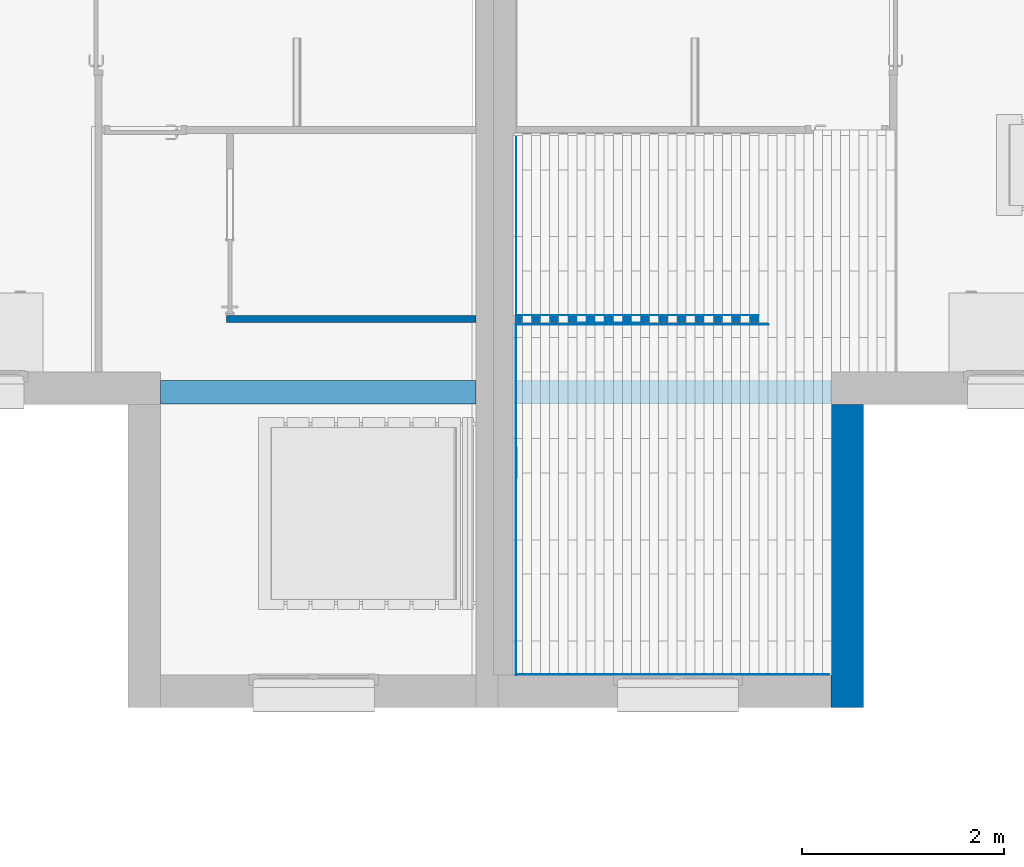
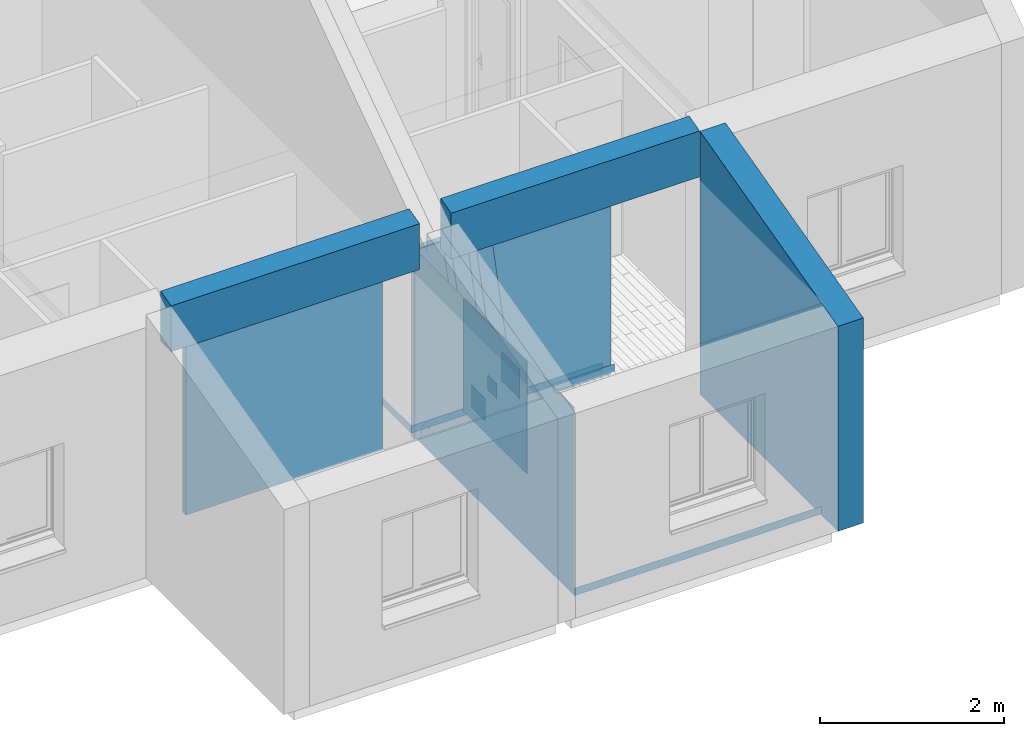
# One storey, part 27 of 50: 15 walls.
"""IFC2X3 building model written with IfcOpenShell, lengths in metres."""

from ifc_helpers import new_model, entity, si_unit, converted_unit, derived_unit, direction, frame, frame_2d, origin, origin_2d_with_axis, place, context, subcontext, project, spatial, polyline, rectangle, extrude, clip, halfspace, bounded_halfspace, material, layer, layer_set, layer_usage, type_object, element, save


model = new_model("IFC2X3")

# Units and contexts
model_context = context("Model", 3, precision=1e-05, world=origin(), true_north=direction((6.12303176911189e-17, 1.0)))
context_of_model = context(None, 3, precision=1e-05, world=origin(), true_north=direction((6.12303176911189e-17, 1.0)))
body_context = subcontext(model_context, "Body", "Model", "MODEL_VIEW")
ifc_project = project(units=[si_unit("LENGTHUNIT", "METRE"), si_unit("AREAUNIT", "SQUARE_METRE"), si_unit("VOLUMEUNIT", "CUBIC_METRE"), converted_unit("PLANEANGLEUNIT", "DEGREE", entity("IfcRatioMeasure", 0.0174532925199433), si_unit("PLANEANGLEUNIT", "RADIAN"), dimensions=[0, 0, 0, 0, 0, 0, 0]), si_unit("MASSUNIT", "GRAM", prefix="KILO"), si_unit("TIMEUNIT", "SECOND"), si_unit("FREQUENCYUNIT", "HERTZ"), si_unit("THERMODYNAMICTEMPERATUREUNIT", "DEGREE_CELSIUS"), derived_unit("THERMALTRANSMITTANCEUNIT", [(si_unit("MASSUNIT", "GRAM", prefix="KILO"), 1), (si_unit("THERMODYNAMICTEMPERATUREUNIT", "KELVIN"), -1), (si_unit("TIMEUNIT", "SECOND"), -3)]), derived_unit("VOLUMETRICFLOWRATEUNIT", [(si_unit("LENGTHUNIT", "METRE"), 3), (si_unit("TIMEUNIT", "SECOND"), -1)]), si_unit("ELECTRICCURRENTUNIT", "AMPERE"), si_unit("ELECTRICVOLTAGEUNIT", "VOLT"), si_unit("POWERUNIT", "WATT"), si_unit("FORCEUNIT", "NEWTON", prefix="KILO"), si_unit("ILLUMINANCEUNIT", "LUX"), si_unit("LUMINOUSFLUXUNIT", "LUMEN"), si_unit("LUMINOUSINTENSITYUNIT", "CANDELA"), si_unit("PRESSUREUNIT", "PASCAL")], contexts=[model_context, context_of_model])

# Site, building, storey
site_placement = place(None, origin())
site = spatial("IfcSite", under=ifc_project, at=site_placement, Name="Surface", CompositionType="ELEMENT")
building_placement = place(site_placement, origin())
building = spatial("IfcBuilding", under=site, at=building_placement, CompositionType="ELEMENT")
storey_placement = place(building_placement, frame((0.0, 0.0, 2.82)))
storey = spatial("IfcBuildingStorey", under=building, at=storey_placement, Name="ETAGE", CompositionType="ELEMENT", Elevation=2.82)

# Walls
ifc_material_1 = material(Name="Peinture - Blanc")
ifc_layer_1 = layer(ifc_material_1, 0.07)
ifc_layer_set_1 = layer_set([ifc_layer_1], Name="Mur de base:Int.  Platre 70 mm en blanc")
ifc_layer_usage_1 = layer_usage(ifc_layer_set_1, "AXIS2", "NEGATIVE", 0.035)
wall_type_1 = type_object("IfcWallType", Name="Mur de base:Int.  Platre 70 mm en blanc", PredefinedType="STANDARD", material=ifc_layer_set_1)
wall_1_placement = place(storey_placement, frame((86.3967857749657, 84.7725239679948, 0.0), z_axis=(0.0, 0.0, 1.0), x_axis=(-1.0, 0.0, 0.0)))
element("IfcWallStandardCase", 1, at=wall_1_placement, inside=storey, type_object=wall_type_1, material=ifc_layer_usage_1, Name="Mur de base:Int.  Platre 70 mm en blanc", ObjectType="Mur de base:Int.  Platre 70 mm en blanc", context=body_context, shape_type="SweptSolid", body=[
    extrude(rectangle(XDim=2.47038340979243, YDim=0.0699999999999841, at=frame_2d((1.23519170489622, 0.0), x_axis=(-1.0, 0.0))), origin(), (0.0, 0.0, 1.0), 2.52),
])
ifc_layer_usage_2 = layer_usage(ifc_layer_set_1, "AXIS2", "POSITIVE", -0.035)
wall_2_placement = place(storey_placement, frame((81.0610189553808, 84.7725239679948, 0.0)))
element("IfcWallStandardCase", 2, at=wall_2_placement, inside=storey, type_object=wall_type_1, material=ifc_layer_usage_2, Name="Mur de base:Int.  Platre 70 mm en blanc", ObjectType="Mur de base:Int.  Platre 70 mm en blanc", context=body_context, shape_type="SweptSolid", body=[
    extrude(rectangle(XDim=2.47038340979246, YDim=0.0699999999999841, at=frame_2d((1.23519170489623, 0.0), x_axis=(-1.0, 0.0))), origin(), (0.0, 0.0, 1.0), 2.52),
])
ifc_material_2 = material(Name="Enduit  gris")
ifc_layer_2 = layer(ifc_material_2, 0.02)
ifc_material_3 = material(Name="Parpaing")
ifc_layer_3 = layer(ifc_material_3, 0.2)
ifc_material_4 = material(Name="Isolant")
ifc_layer_4 = layer(ifc_material_4, 0.1)
ifc_layer_set_2 = layer_set([ifc_layer_2, ifc_layer_3, ifc_layer_4], Name="Mur de base:Ext. Parpaing 20 + Isolant 10 enduit gris")
ifc_layer_usage_3 = layer_usage(ifc_layer_set_2, "AXIS2", "NEGATIVE", 0.16)
wall_type_2 = type_object("IfcWallType", Name="Mur de base:Ext. Parpaing 20 + Isolant 10 enduit gris", PredefinedType="STANDARD", material=ifc_layer_set_2)
wall_3_placement = place(storey_placement, frame((87.2067857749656, 83.9275239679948, 0.0), z_axis=(0.0, 0.0, 1.0), x_axis=(0.0, -1.0, 0.0)))
element("IfcWallStandardCase", 3, at=wall_3_placement, inside=storey, type_object=wall_type_2, material=ifc_layer_usage_3, Name="Mur de base:Ext. Parpaing 20 + Isolant 10 enduit gris", ObjectType="Mur de base:Ext. Parpaing 20 + Isolant 10 enduit gris", context=body_context, shape_type="Clipping", body=[
    clip(extrude(rectangle(XDim=3.00000000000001, YDim=0.319999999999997, at=frame_2d((1.50000000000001, 0.0), x_axis=(-1.0, 0.0))), origin(), (0.0, 0.0, 1.0), 3.49084668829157), bounded_halfspace(frame((0.0, -0.159999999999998, 3.49084668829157), z_axis=(0.248864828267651, 0.0, 0.968538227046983), x_axis=(0.0, 1.0, 0.0)), False, frame((0.0, -0.159999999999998, 3.49084668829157)), polyline([(0.0, 0.0), (2.68000000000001, 0.0), (3.0, 0.0), (3.0, 0.319999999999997), (0.0, 0.319999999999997), (0.0, 0.0)]))),
])
ifc_material_5 = material(Name="Enduit blanc cassé2")
ifc_layer_5 = layer(ifc_material_5, 0.015)
ifc_layer_6 = layer(ifc_material_3, 0.2)
ifc_layer_7 = layer(ifc_material_5, 0.015)
ifc_layer_set_3 = layer_set([ifc_layer_5, ifc_layer_6, ifc_layer_7], Name="Mur de base:Ext. Parpaing 20 + 2 x 1.5")
ifc_layer_usage_4 = layer_usage(ifc_layer_set_3, "AXIS2", "NEGATIVE", 0.115)
wall_type_3 = type_object("IfcWallType", Name="Mur de base:Ext. Parpaing 20 + 2 x 1.5", PredefinedType="STANDARD", material=ifc_layer_set_3)
wall_4_placement = place(storey_placement, frame((87.0467857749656, 84.0475239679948, 2.88288676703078), z_axis=(0.0, 0.0, 1.0), x_axis=(-1.0, 0.0, 0.0)))
element("IfcWallStandardCase", 4, at=wall_4_placement, inside=storey, type_object=wall_type_3, material=ifc_layer_usage_4, Name="Mur de base:Ext. Parpaing 20 + 2 x 1.5", ObjectType="Mur de base:Ext. Parpaing 20 + 2 x 1.5", context=body_context, shape_type="Clipping", body=[
    clip(extrude(rectangle(XDim=3.12038340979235, YDim=0.230000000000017, at=frame_2d((1.56019170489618, -6.45317133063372e-16), x_axis=(-1.0, 0.0))), origin(), (0.0, 0.0, 1.0), 0.66834291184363), bounded_halfspace(frame((0.0, -0.114999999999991, 0.668342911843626), z_axis=(0.0, 0.248864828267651, 0.968538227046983), x_axis=(-1.0, 0.0, 0.0)), False, frame((0.0, -0.114999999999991, 0.668342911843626)), polyline([(0.0, 0.0), (3.12038340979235, 0.0), (3.12038340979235, 0.23), (0.0, 0.23), (0.0, 0.0)]))),
])
ifc_layer_usage_5 = layer_usage(ifc_layer_set_3, "AXIS2", "POSITIVE", -0.115)
wall_5_placement = place(storey_placement, frame((80.4110189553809, 84.0475239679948, 2.88288676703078)))
element("IfcWallStandardCase", 5, at=wall_5_placement, inside=storey, type_object=wall_type_3, material=ifc_layer_usage_5, Name="Mur de base:Ext. Parpaing 20 + 2 x 1.5", ObjectType="Mur de base:Ext. Parpaing 20 + 2 x 1.5", context=body_context, shape_type="Clipping", body=[
    clip(extrude(rectangle(XDim=3.12038340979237, YDim=0.230000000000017, at=frame_2d((1.56019170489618, 6.38378239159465e-16), x_axis=(-1.0, 0.0))), origin(), (0.0, 0.0, 1.0), 0.668342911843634), bounded_halfspace(frame((0.0, -0.114999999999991, 0.609244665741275), z_axis=(0.0, -0.248864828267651, 0.968538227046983), x_axis=(1.0, 0.0, 0.0)), False, frame((0.0, -0.114999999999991, 0.609244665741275)), polyline([(0.0, 0.0), (3.12038340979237, 0.0), (3.12038340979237, 0.23), (0.0, 0.23), (0.0, 0.0)]))),
])
ifc_material_6 = material(Name="biorox 2")
ifc_layer_8 = layer(ifc_material_6, 0.002)
ifc_layer_set_4 = layer_set([ifc_layer_8], Name="Mur de base:peinture biorox 2")
ifc_layer_usage_6 = layer_usage(ifc_layer_set_4, "AXIS2", "POSITIVE", -0.001)
wall_type_4 = type_object("IfcWallType", Name="Mur de base:peinture biorox 2", PredefinedType="STANDARD", material=ifc_layer_set_4)
wall_6_placement = place(storey_placement, frame((83.9310898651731, 84.8089434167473, 0.0400000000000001)))
element("IfcWallStandardCase", 6, at=wall_6_placement, inside=storey, type_object=wall_type_4, material=ifc_layer_usage_6, Name="Mur de base:peinture biorox 2", ObjectType="Mur de base:peinture biorox 2", context=body_context, shape_type="Clipping", body=[
    clip(extrude(rectangle(XDim=2.39781250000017, YDim=0.00199999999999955, at=frame_2d((1.19890625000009, -3.477903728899e-15), x_axis=(-1.0, 0.0))), origin(), (0.0, 0.0, 1.0), 0.0997627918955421), halfspace(frame((0.0, -0.000999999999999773, 0.0997627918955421), z_axis=(0.0, 0.0, 1.0), x_axis=(0.0, 1.0, 0.0)), False)),
])
ifc_layer_usage_7 = layer_usage(ifc_layer_set_4, "AXIS2", "NEGATIVE", 0.001)
wall_7_placement = place(storey_placement, frame((84.3695433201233, 84.7361045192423, 0.0400000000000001)))
element("IfcWallStandardCase", 7, at=wall_7_placement, inside=storey, type_object=wall_type_4, material=ifc_layer_usage_7, Name="Mur de base:peinture biorox 2", ObjectType="Mur de base:peinture biorox 2", context=body_context, shape_type="Clipping", body=[
    clip(clip(extrude(rectangle(XDim=0.518694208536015, YDim=0.00199999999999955, at=frame_2d((0.259347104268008, 0.0), x_axis=(-1.0, 0.0))), origin(), (0.0, 0.0, 1.0), 2.5), halfspace(frame((0.316929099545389, -0.000999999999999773, 0.0), z_axis=(-0.992060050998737, 0.0, -0.125765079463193), x_axis=(0.0, 1.0, 0.0)), False)), halfspace(frame((0.201765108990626, -0.000999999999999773, 2.5), z_axis=(0.992060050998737, 0.0, 0.125765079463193), x_axis=(0.0, 1.0, 0.0)), False)),
])
ifc_layer_usage_8 = layer_usage(ifc_layer_set_4, "AXIS2", "POSITIVE", -0.001)
wall_8_placement = place(storey_placement, frame((83.9320898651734, 83.6875239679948, 1.02), z_axis=(0.0, 0.0, 1.0), x_axis=(0.0, -1.0, 0.0)))
element("IfcWallStandardCase", 8, at=wall_8_placement, inside=storey, type_object=wall_type_4, material=ifc_layer_usage_8, Name="Mur de base:peinture biorox 2", ObjectType="Mur de base:peinture biorox 2", context=body_context, shape_type="Clipping", body=[
    clip(clip(extrude(rectangle(XDim=1.39999999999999, YDim=0.00199999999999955, at=frame_2d((0.699999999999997, 0.0), x_axis=(-1.0, 0.0))), origin(), (0.0, 0.0, 1.0), 1.5), halfspace(frame((1.39999999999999, -0.000999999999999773, 0.0), z_axis=(0.0, 0.0, -1.0), x_axis=(0.0, 1.0, 0.0)), False)), halfspace(frame((0.0, -0.000999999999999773, 1.5), z_axis=(0.0, 0.0, 1.0), x_axis=(0.0, 1.0, 0.0)), False)),
])
ifc_material_7 = material(Name="Blanc - Element de salle de bains")
ifc_layer_9 = layer(ifc_material_7, 0.002)
ifc_layer_set_5 = layer_set([ifc_layer_9], Name="Mur de base:PLINTHE EN BOIS")
ifc_layer_usage_9 = layer_usage(ifc_layer_set_5, "AXIS2", "NEGATIVE", 0.001)
wall_type_5 = type_object("IfcWallType", Name="Mur de base:PLINTHE EN BOIS", PredefinedType="STANDARD", material=ifc_layer_set_5)
wall_9_placement = place(storey_placement, frame((83.9300898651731, 86.5975239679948, 0.0400000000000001), z_axis=(0.0, 0.0, 1.0), x_axis=(0.0, -1.0, 0.0)))
element("IfcWallStandardCase", 9, at=wall_9_placement, inside=storey, type_object=wall_type_5, material=ifc_layer_usage_9, Name="Mur de base:PLINTHE EN BOIS", ObjectType="Mur de base:PLINTHE EN BOIS", context=body_context, shape_type="SweptSolid", body=[
    extrude(rectangle(XDim=5.34999999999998, YDim=0.00199999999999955, at=frame_2d((2.67499999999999, 0.0), x_axis=(-1.0, 0.0))), origin(), (0.0, 0.0, 1.0), 0.1),
])
ifc_layer_usage_10 = layer_usage(ifc_layer_set_5, "AXIS2", "POSITIVE", -0.001)
wall_10_placement = place(storey_placement, frame((83.9286523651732, 81.2535239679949, 0.0400000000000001)))
element("IfcWallStandardCase", 10, at=wall_10_placement, inside=storey, type_object=wall_type_5, material=ifc_layer_usage_10, Name="Mur de base:PLINTHE EN BOIS", ObjectType="Mur de base:PLINTHE EN BOIS", context=body_context, shape_type="SweptSolid", body=[
    extrude(rectangle(XDim=3.10000000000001, YDim=0.00199999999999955, at=frame_2d((1.55, -8.67361737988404e-18), x_axis=(-1.0, 0.0))), origin(), (0.0, 0.0, 1.0), 0.1),
])
ifc_layer_usage_11 = layer_usage(ifc_layer_set_5, "AXIS2", "NEGATIVE", 0.001)
wall_11_placement = place(storey_placement, frame((83.9286523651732, 84.7190239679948, 0.0400000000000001)))
element("IfcWallStandardCase", 11, at=wall_11_placement, inside=storey, type_object=wall_type_5, material=ifc_layer_usage_11, Name="Mur de base:PLINTHE EN BOIS", ObjectType="Mur de base:PLINTHE EN BOIS", context=body_context, shape_type="SweptSolid", body=[
    extrude(rectangle(XDim=2.499, YDim=0.00199999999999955, at=frame_2d((1.2495, 1.70122162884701e-15), x_axis=(-1.0, 0.0))), origin(), (0.0, 0.0, 1.0), 0.1),
])
ifc_material_8 = material(Name="biorox 1")
ifc_layer_10 = layer(ifc_material_8, 0.002)
ifc_layer_set_6 = layer_set([ifc_layer_10], Name="Mur de base:peinture biorox 1")
ifc_layer_usage_12 = layer_usage(ifc_layer_set_6, "AXIS2", "NEGATIVE", 0.001)
wall_type_6 = type_object("IfcWallType", Name="Mur de base:peinture biorox 1", PredefinedType="STANDARD", material=ifc_layer_set_6)
wall_12_placement = place(storey_placement, frame((84.6721909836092, 84.7361045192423, 0.0400000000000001)))
element("IfcWallStandardCase", 12, at=wall_12_placement, inside=storey, type_object=wall_type_6, material=ifc_layer_usage_12, Name="Mur de base:peinture biorox 1", ObjectType="Mur de base:peinture biorox 1", context=body_context, shape_type="Clipping", body=[
    clip(clip(extrude(rectangle(XDim=0.518694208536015, YDim=0.00199999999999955, at=frame_2d((0.259347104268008, 0.0), x_axis=(-1.0, 0.0))), origin(), (0.0, 0.0, 1.0), 2.5), halfspace(frame((0.316929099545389, -0.000999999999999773, 0.0), z_axis=(-0.992060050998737, 0.0, -0.125765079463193), x_axis=(0.0, 1.0, 0.0)), False)), halfspace(frame((0.201765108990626, -0.000999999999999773, 2.5), z_axis=(0.992060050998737, 0.0, 0.125765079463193), x_axis=(0.0, 1.0, 0.0)), False)),
])
wall_13_placement = place(storey_placement, frame((83.9340898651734, 83.5003628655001, 1.16999999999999), z_axis=(0.0, 0.0, 1.0), x_axis=(0.0, -1.0, 0.0)))
element("IfcWall", 13, at=wall_13_placement, inside=storey, type_object=wall_type_6, Name="Mur de base:peinture biorox 1", ObjectType="Mur de base:peinture biorox 1", context=body_context, shape_type="SweptSolid", body=[
    extrude(rectangle(XDim=0.00199999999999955, YDim=0.399999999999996, at=frame_2d((0.0, 8.65973959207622e-15), x_axis=(1.0, 0.0))), frame((0.850000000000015, 0.0, 0.750000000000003), z_axis=(0.0, 0.0, 1.0), x_axis=(0.0, 1.0, 0.0)), (0.0, 0.0, 1.0), 0.400000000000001),
    extrude(rectangle(XDim=0.00199999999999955, YDim=0.300000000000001, at=origin_2d_with_axis()), frame((0.150000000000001, 0.0, 0.0), z_axis=(0.0, 0.0, 1.0), x_axis=(0.0, 1.0, 0.0)), (0.0, 0.0, 1.0), 0.300000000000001),
    extrude(rectangle(XDim=0.00199999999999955, YDim=0.200000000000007, at=frame_2d((0.0, 8.65973959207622e-15), x_axis=(1.0, 0.0))), frame((0.450000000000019, 0.0, 0.450000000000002), z_axis=(0.0, 0.0, 1.0), x_axis=(0.0, 1.0, 0.0)), (0.0, 0.0, 1.0), 0.200000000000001),
])
ifc_material_9 = material(Name="papier peint jardin sarcelle")
ifc_layer_11 = layer(ifc_material_9, 0.002)
ifc_layer_set_7 = layer_set([ifc_layer_11], Name="Mur de base:PAPIER PEINT Jardin Sarcelle")
ifc_layer_usage_13 = layer_usage(ifc_layer_set_7, "AXIS2", "NEGATIVE", 0.001)
wall_type_7 = type_object("IfcWallType", Name="Mur de base:PAPIER PEINT Jardin Sarcelle", PredefinedType="STANDARD", material=ifc_layer_set_7)
wall_14_placement = place(storey_placement, frame((83.9276523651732, 84.7200239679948, 0.0400000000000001), z_axis=(0.0, 0.0, 1.0), x_axis=(0.0, -1.0, 0.0)))
element("IfcWallStandardCase", 14, at=wall_14_placement, inside=storey, type_object=wall_type_7, material=ifc_layer_usage_13, Name="Mur de base:PAPIER PEINT Jardin Sarcelle", ObjectType="Mur de base:PAPIER PEINT Jardin Sarcelle", context=body_context, shape_type="SweptSolid", body=[
    extrude(rectangle(XDim=3.46749999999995, YDim=0.00199999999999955, at=frame_2d((1.73374999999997, 0.0), x_axis=(-1.0, 0.0))), origin(), (0.0, 0.0, 1.0), 2.5),
])
ifc_layer_usage_14 = layer_usage(ifc_layer_set_7, "AXIS2", "NEGATIVE", 0.001)
wall_15_placement = place(storey_placement, frame((83.9310898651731, 84.7211983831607, 0.0400000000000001)))
element("IfcWallStandardCase", 15, at=wall_15_placement, inside=storey, type_object=wall_type_7, material=ifc_layer_usage_14, Name="Mur de base:PAPIER PEINT Jardin Sarcelle", ObjectType="Mur de base:PAPIER PEINT Jardin Sarcelle", context=body_context, shape_type="Clipping", body=[
    clip(extrude(rectangle(XDim=0.670970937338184, YDim=0.00199999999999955, at=frame_2d((0.335485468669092, 0.0), x_axis=(-1.0, 0.0))), origin(), (0.0, 0.0, 1.0), 2.48), halfspace(frame((0.340758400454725, -0.000999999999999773, 2.48), z_axis=(0.991251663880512, 0.0, 0.13198537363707), x_axis=(0.0, 1.0, 0.0)), False)),
])

save(model, "model.ifc")
